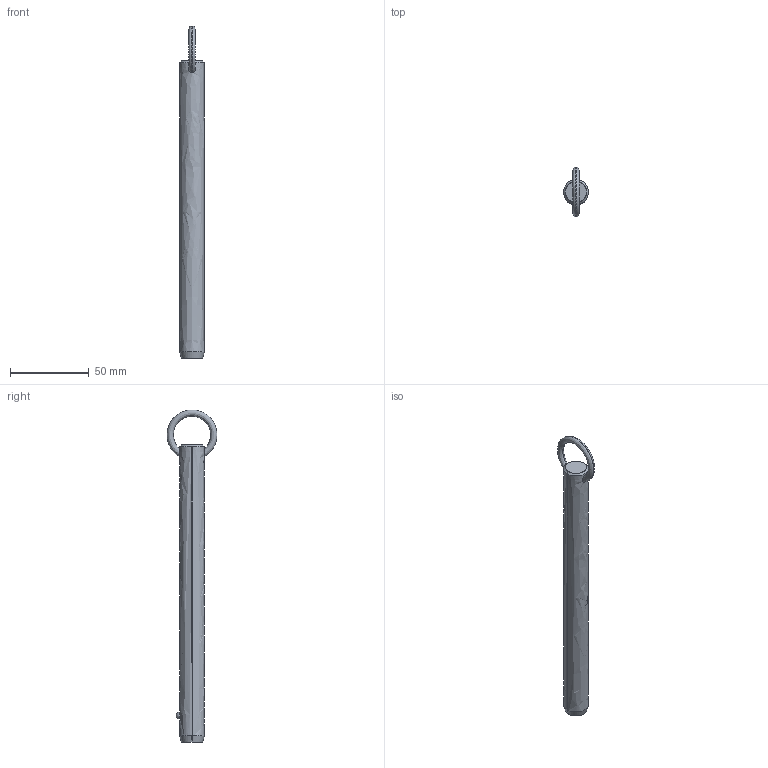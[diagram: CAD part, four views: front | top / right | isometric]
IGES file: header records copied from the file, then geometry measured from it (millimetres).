
Start section: SolidWorks IGES file using analytic representation for surfaces
Global section: file name: C:\Users\liam_\OneDrive\Documents\WORK\Work for WixRoyd\Job Files\J-00019 - Matt Davis CAD Checking\04. CAD Drawings\automotion20190605\P1250.2_v2\P1250.2_v2_20190729_IGES\P1250.062-630.igs; native system: SolidWorks 2017; preprocessor: SolidWorks 2017; author: liam_; date: 190729.234218; units: millimetre
Bounding box: 15.8 x 31.66 x 210.7 mm (x, y, z)
Surface area: 10530.5 mm2 (no closed solid volume)
Topology: 0 solids, 0 shells, 12 faces, 292 edges, 290 vertices
Faces by surface type: revolution 8, bspline 4
